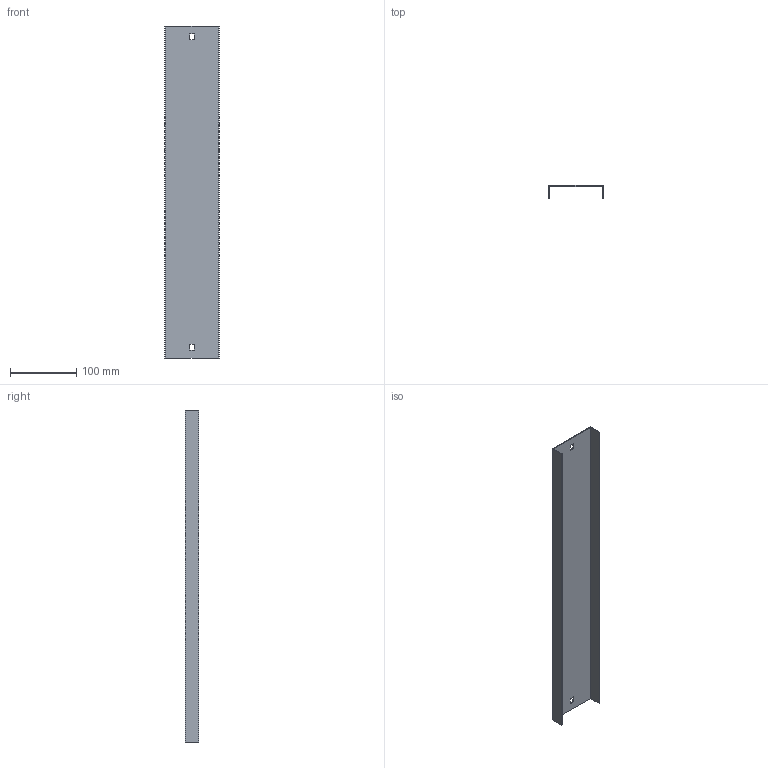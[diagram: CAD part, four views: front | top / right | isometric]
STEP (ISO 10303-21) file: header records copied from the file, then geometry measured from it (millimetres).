
FILE_DESCRIPTION (( 'STEP AP214' ), '1' );
FILE_NAME ('05G7R075.step', '2025-02-21T13:08:14', ( '' ), ( '' ), 'SwSTEP 2.0', 'SolidWorks 2023', '' );
FILE_SCHEMA (( 'AUTOMOTIVE_DESIGN' ));
Length unit declared in the file: millimetre
Products named in the file (1): 05G7R075
Bounding box: 82 x 20 x 500 mm (x, y, z)
Volume: 89074.5 mm3; surface area: 120716 mm2
Topology: 1 solids, 1 shells, 18 faces, 48 edges, 32 vertices
Faces by surface type: plane 18
Entity records: 583 total; most frequent: CARTESIAN_POINT 99, ORIENTED_EDGE 96, DIRECTION 86, LINE 48, EDGE_CURVE 48, VECTOR 48, VERTEX_POINT 32, EDGE_LOOP 22
